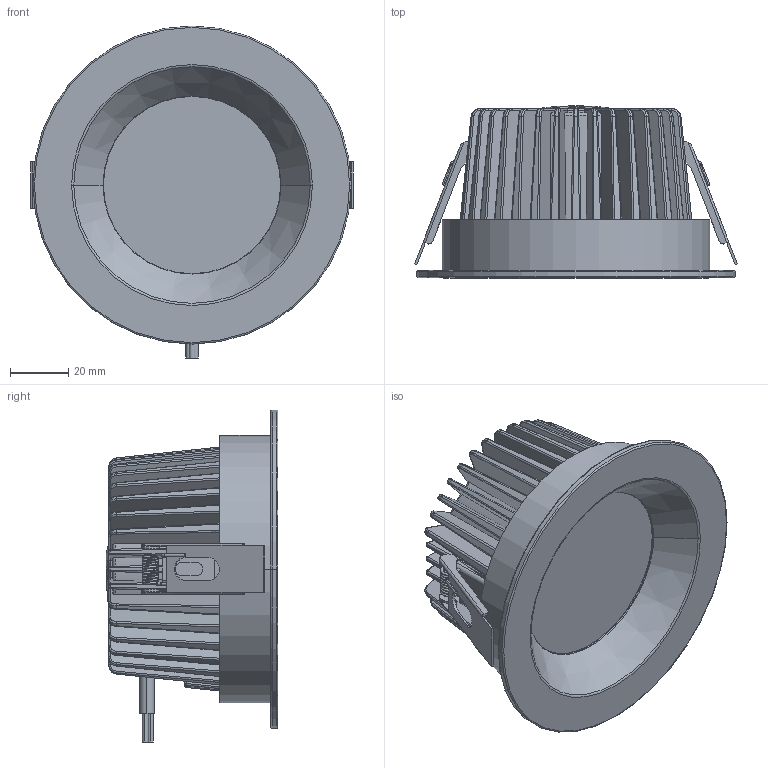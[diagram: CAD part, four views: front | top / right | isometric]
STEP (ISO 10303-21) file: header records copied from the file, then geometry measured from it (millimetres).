
FILE_DESCRIPTION((''),'2;1');
FILE_NAME('ASM0001_ASM','2025-12-19T14:36:22',('Administrator'),(''),'CREO PARAMETRIC BY PTC INC, 2021164','CREO PARAMETRIC BY PTC INC, 2021164','');
FILE_SCHEMA(('CONFIG_CONTROL_DESIGN','SHAPE_APPEARANCE_LAYERS_GROUPS'));
Products named in the file (7): PRT0001; PRT0002; PRT0003; PRT0004; PRT0005; PRT0006; ASM0001_ASM
Assembly tree (8 placements, depth 2):
  ASM0001_ASM
    PRT0001
    PRT0002
    PRT0003
    PRT0004
    PRT0005  x2
    PRT0006  x2
Bounding box: 111.02 x 59.2 x 114.28 mm (x, y, z)
Volume: 140658.8 mm3; surface area: 106389.1 mm2
Topology: 10 solids, 10 shells, 896 faces, 2192 edges, 1327 vertices
Faces by surface type: plane 252, bspline 237, cylinder 199, torus 100, cone 85, sphere 23
Entity records: 49680 total; most frequent: CARTESIAN_POINT 20716, ORIENTED_EDGE 4016, DIRECTION 3103, PRESENTATION_STYLE_ASSIGNMENT 2787, STYLED_ITEM 2784, CURVE_STYLE 2008, EDGE_CURVE 2008, AXIS2_PLACEMENT_3D 1259
